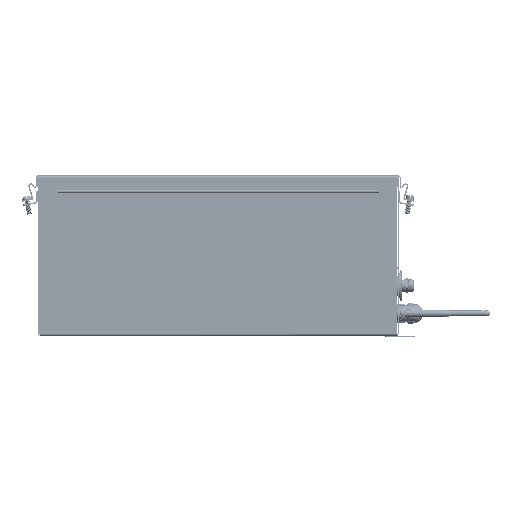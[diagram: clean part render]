
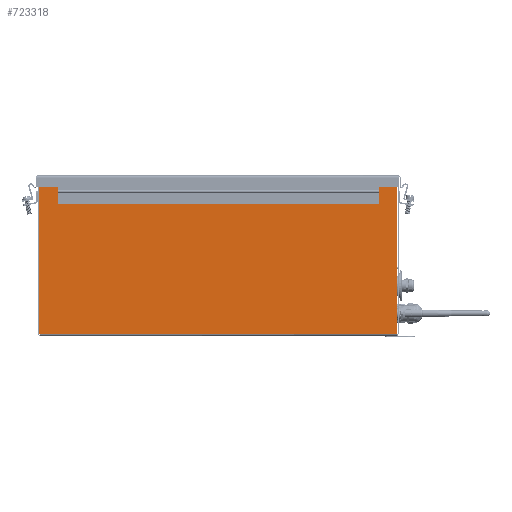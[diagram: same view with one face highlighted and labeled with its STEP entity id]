
A CAD part, left-side view. The second image highlights one B-rep face of the part: STEP entity #723318.
In plain terms, the highlighted planar face has unit normal (-1, 0, 0).
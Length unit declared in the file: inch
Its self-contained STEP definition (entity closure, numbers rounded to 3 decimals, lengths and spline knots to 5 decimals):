
#1997 = EDGE_LOOP ( 'NONE', ( #260029, #725960, #49965, #532881, #685575, #36562, #399831, #533904, #168117, #147641, #724911, #33223 ) ) ;
#16638 = CARTESIAN_POINT ( 'NONE',  ( -7., 6.94, 6.9815 ) ) ;
#23088 = FACE_OUTER_BOUND ( 'NONE', #1997, .T. ) ;
#27492 = LINE ( 'NONE', #616381, #594634 ) ;
#30734 = CARTESIAN_POINT ( 'NONE',  ( -7., 0., 0. ) ) ;
#33223 = ORIENTED_EDGE ( 'NONE', *, *, #736161, .F. ) ;
#33418 = DIRECTION ( 'NONE',  ( 0., -1., 0. ) ) ;
#36562 = ORIENTED_EDGE ( 'NONE', *, *, #521939, .T. ) ;
#43926 = DIRECTION ( 'NONE',  ( 0., 0., -1. ) ) ;
#49965 = ORIENTED_EDGE ( 'NONE', *, *, #217883, .T. ) ;
#51195 = VECTOR ( 'NONE', #543430, 39.37008 ) ;
#61628 = CARTESIAN_POINT ( 'NONE',  ( -7., -8.6, 0. ) ) ;
#67328 = DIRECTION ( 'NONE',  ( 0., 0., -1. ) ) ;
#72693 = DIRECTION ( 'NONE',  ( 0., 0., 1. ) ) ;
#79426 = ORIENTED_EDGE ( 'NONE', *, *, #338878, .F. ) ;
#81194 = DIRECTION ( 'NONE',  ( 0., 0., -1. ) ) ;
#88146 = VERTEX_POINT ( 'NONE', #163162 ) ;
#91109 = VERTEX_POINT ( 'NONE', #310587 ) ;
#97921 = VERTEX_POINT ( 'NONE', #233554 ) ;
#115735 = CARTESIAN_POINT ( 'NONE',  ( -7., 8.6239, 7.84 ) ) ;
#116205 = CARTESIAN_POINT ( 'NONE',  ( -7., 8.6239, 0. ) ) ;
#116707 = VERTEX_POINT ( 'NONE', #267899 ) ;
#116902 = VECTOR ( 'NONE', #478877, 39.37008 ) ;
#136181 = PLANE ( 'NONE',  #670621 ) ;
#143848 = FACE_BOUND ( 'NONE', #389701, .T. ) ;
#145284 = LINE ( 'NONE', #434066, #51195 ) ;
#147641 = ORIENTED_EDGE ( 'NONE', *, *, #156756, .T. ) ;
#148667 = EDGE_CURVE ( 'NONE', #678329, #244829, #295641, .T. ) ;
#152244 = EDGE_CURVE ( 'NONE', #88146, #181012, #172245, .T. ) ;
#154027 = CARTESIAN_POINT ( 'NONE',  ( -7., 8.92436, 0. ) ) ;
#156756 = EDGE_CURVE ( 'NONE', #510585, #426907, #341081, .T. ) ;
#163162 = CARTESIAN_POINT ( 'NONE',  ( -7., -8.6239, 7.84 ) ) ;
#168117 = ORIENTED_EDGE ( 'NONE', *, *, #597241, .F. ) ;
#172245 = LINE ( 'NONE', #410145, #542204 ) ;
#178093 = CIRCLE ( 'NONE', #589002, 0.01195 ) ;
#181012 = VERTEX_POINT ( 'NONE', #480253 ) ;
#187515 = DIRECTION ( 'NONE',  ( 0., -1., 0. ) ) ;
#189694 = CIRCLE ( 'NONE', #600540, 0.01195 ) ;
#204565 = VERTEX_POINT ( 'NONE', #495850 ) ;
#205057 = CARTESIAN_POINT ( 'NONE',  ( -7., 0., 0.1078 ) ) ;
#213035 = CARTESIAN_POINT ( 'NONE',  ( -7., 8.6, 7.7683 ) ) ;
#215535 = CARTESIAN_POINT ( 'NONE',  ( -7., 8.6, 0. ) ) ;
#217883 = EDGE_CURVE ( 'NONE', #181012, #678329, #189694, .T. ) ;
#221676 = CARTESIAN_POINT ( 'NONE',  ( -7., 8.92436, 7.84 ) ) ;
#230904 = CIRCLE ( 'NONE', #741521, 0.0815 ) ;
#231268 = CARTESIAN_POINT ( 'NONE',  ( -7., -8.92436, 0.0478 ) ) ;
#233554 = CARTESIAN_POINT ( 'NONE',  ( -7., 8.6, 7.7922 ) ) ;
#235397 = CARTESIAN_POINT ( 'NONE',  ( -7., 6.94, 6.9 ) ) ;
#237023 = DIRECTION ( 'NONE',  ( 0., 0., 1. ) ) ;
#244829 = VERTEX_POINT ( 'NONE', #491142 ) ;
#260029 = ORIENTED_EDGE ( 'NONE', *, *, #470884, .F. ) ;
#267899 = CARTESIAN_POINT ( 'NONE',  ( -7., 8.6239, 7.7683 ) ) ;
#280660 = AXIS2_PLACEMENT_3D ( 'NONE', #235397, #765997, #586556 ) ;
#293179 = VERTEX_POINT ( 'NONE', #16638 ) ;
#295641 = LINE ( 'NONE', #61628, #116902 ) ;
#310587 = CARTESIAN_POINT ( 'NONE',  ( -7., -8.92436, 0.1078 ) ) ;
#335107 = DIRECTION ( 'NONE',  ( 1., 0., 0. ) ) ;
#336823 = CARTESIAN_POINT ( 'NONE',  ( -7., 6.94, 6.8185 ) ) ;
#338878 = EDGE_CURVE ( 'NONE', #718552, #293179, #230904, .T. ) ;
#341081 = LINE ( 'NONE', #154027, #383476 ) ;
#359194 = CARTESIAN_POINT ( 'NONE',  ( -7., -9., 7.84 ) ) ;
#369088 = CARTESIAN_POINT ( 'NONE',  ( -7., -8.61195, 7.7683 ) ) ;
#383476 = VECTOR ( 'NONE', #81194, 39.37008 ) ;
#389701 = EDGE_LOOP ( 'NONE', ( #633023, #79426 ) ) ;
#389853 = CARTESIAN_POINT ( 'NONE',  ( -7., 8.61195, 7.7683 ) ) ;
#399831 = ORIENTED_EDGE ( 'NONE', *, *, #465895, .T. ) ;
#408434 = DIRECTION ( 'NONE',  ( 0., 0., 1. ) ) ;
#410145 = CARTESIAN_POINT ( 'NONE',  ( -7., -8.6239, 0. ) ) ;
#412933 = EDGE_CURVE ( 'NONE', #116707, #425960, #771439, .T. ) ;
#416090 = DIRECTION ( 'NONE',  ( -1., 0., 0. ) ) ;
#425638 = VECTOR ( 'NONE', #33418, 39.37008 ) ;
#425960 = VERTEX_POINT ( 'NONE', #115735 ) ;
#426907 = VERTEX_POINT ( 'NONE', #582069 ) ;
#433231 = DIRECTION ( 'NONE',  ( 0., 1., 0. ) ) ;
#434066 = CARTESIAN_POINT ( 'NONE',  ( -7., -9., 7.84 ) ) ;
#437082 = VECTOR ( 'NONE', #187515, 39.37008 ) ;
#443245 = EDGE_CURVE ( 'NONE', #293179, #718552, #616960, .T. ) ;
#448363 = EDGE_CURVE ( 'NONE', #244829, #97921, #27492, .T. ) ;
#452649 = VECTOR ( 'NONE', #237023, 39.37008 ) ;
#453471 = LINE ( 'NONE', #215535, #752275 ) ;
#465895 = EDGE_CURVE ( 'NONE', #661294, #116707, #178093, .T. ) ;
#470884 = EDGE_CURVE ( 'NONE', #88146, #204565, #483907, .T. ) ;
#478877 = DIRECTION ( 'NONE',  ( 0., 0., 1. ) ) ;
#480253 = CARTESIAN_POINT ( 'NONE',  ( -7., -8.6239, 7.7683 ) ) ;
#483907 = LINE ( 'NONE', #359194, #437082 ) ;
#491142 = CARTESIAN_POINT ( 'NONE',  ( -7., -8.6, 7.7922 ) ) ;
#495850 = CARTESIAN_POINT ( 'NONE',  ( -7., -8.92436, 7.84 ) ) ;
#501521 = LINE ( 'NONE', #205057, #425638 ) ;
#510585 = VERTEX_POINT ( 'NONE', #221676 ) ;
#521939 = EDGE_CURVE ( 'NONE', #97921, #661294, #453471, .T. ) ;
#532881 = ORIENTED_EDGE ( 'NONE', *, *, #148667, .T. ) ;
#533904 = ORIENTED_EDGE ( 'NONE', *, *, #412933, .T. ) ;
#542204 = VECTOR ( 'NONE', #647994, 39.37008 ) ;
#543430 = DIRECTION ( 'NONE',  ( 0., -1., 0. ) ) ;
#582069 = CARTESIAN_POINT ( 'NONE',  ( -7., 8.92436, 0.1078 ) ) ;
#586556 = DIRECTION ( 'NONE',  ( 0., 0., 1. ) ) ;
#589002 = AXIS2_PLACEMENT_3D ( 'NONE', #389853, #335107, #705477 ) ;
#594634 = VECTOR ( 'NONE', #433231, 39.37008 ) ;
#597241 = EDGE_CURVE ( 'NONE', #510585, #425960, #145284, .T. ) ;
#600540 = AXIS2_PLACEMENT_3D ( 'NONE', #369088, #669330, #72693 ) ;
#611954 = DIRECTION ( 'NONE',  ( -1., 0., 0. ) ) ;
#616381 = CARTESIAN_POINT ( 'NONE',  ( -7., -8.6, 7.7922 ) ) ;
#616960 = CIRCLE ( 'NONE', #280660, 0.0815 ) ;
#619640 = DIRECTION ( 'NONE',  ( 0., 0., 1. ) ) ;
#633023 = ORIENTED_EDGE ( 'NONE', *, *, #443245, .F. ) ;
#647994 = DIRECTION ( 'NONE',  ( 0., 0., -1. ) ) ;
#648325 = VECTOR ( 'NONE', #67328, 39.37008 ) ;
#661294 = VERTEX_POINT ( 'NONE', #213035 ) ;
#669330 = DIRECTION ( 'NONE',  ( 1., 0., 0. ) ) ;
#670621 = AXIS2_PLACEMENT_3D ( 'NONE', #30734, #611954, #619640 ) ;
#678329 = VERTEX_POINT ( 'NONE', #716475 ) ;
#685575 = ORIENTED_EDGE ( 'NONE', *, *, #448363, .T. ) ;
#705477 = DIRECTION ( 'NONE',  ( 0., 0., 1. ) ) ;
#716475 = CARTESIAN_POINT ( 'NONE',  ( -7., -8.6, 7.7683 ) ) ;
#718552 = VERTEX_POINT ( 'NONE', #336823 ) ;
#723318 = ADVANCED_FACE ( 'NONE', ( #143848, #23088 ), #136181, .T. ) ;
#724911 = ORIENTED_EDGE ( 'NONE', *, *, #740293, .T. ) ;
#725960 = ORIENTED_EDGE ( 'NONE', *, *, #152244, .T. ) ;
#736161 = EDGE_CURVE ( 'NONE', #204565, #91109, #765691, .T. ) ;
#740293 = EDGE_CURVE ( 'NONE', #426907, #91109, #501521, .T. ) ;
#741521 = AXIS2_PLACEMENT_3D ( 'NONE', #771053, #416090, #408434 ) ;
#752275 = VECTOR ( 'NONE', #43926, 39.37008 ) ;
#765691 = LINE ( 'NONE', #231268, #648325 ) ;
#765997 = DIRECTION ( 'NONE',  ( -1., 0., 0. ) ) ;
#771053 = CARTESIAN_POINT ( 'NONE',  ( -7., 6.94, 6.9 ) ) ;
#771439 = LINE ( 'NONE', #116205, #452649 ) ;
